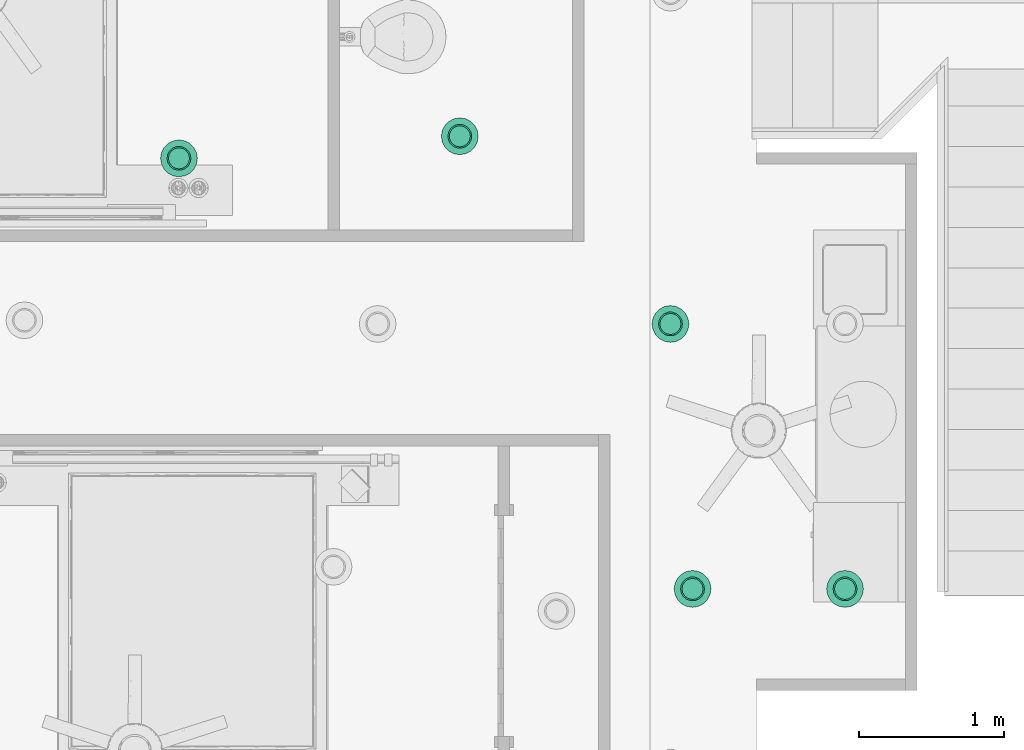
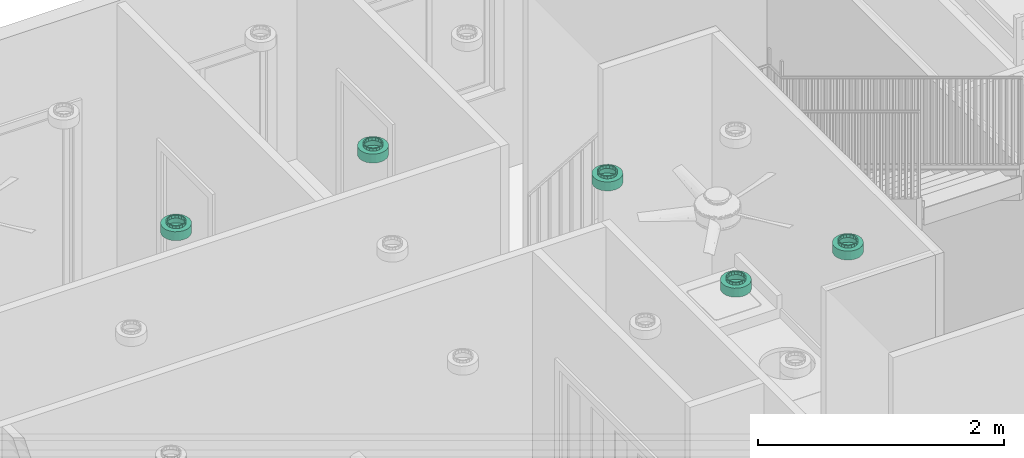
# One storey, part 16 of 28: 5 flow terminals.
"""IFC2X3 building model written with IfcOpenShell, lengths in feet."""

from ifc_helpers import new_model, entity, si_unit, converted_unit, derived_unit, direction, frame, origin, place, context, subcontext, project, spatial, faceted_brep, source, transform, mapped, material, material_list, type_object, type_shapes, element, save


model = new_model("IFC2X3")

# Units and contexts
model_context = context("Model", 3, precision=0.0001, world=origin(), true_north=direction((6.12303176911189e-17, 1.0)))
body_context = subcontext(model_context, "Body", "Model", "MODEL_VIEW")
ifc_project = project(units=[converted_unit("LENGTHUNIT", "FOOT", entity("IfcRatioMeasure", 0.3048), si_unit("LENGTHUNIT", "METRE"), dimensions=[1, 0, 0, 0, 0, 0, 0]), converted_unit("AREAUNIT", "SQUARE FOOT", entity("IfcRatioMeasure", 0.09290304), si_unit("AREAUNIT", "SQUARE_METRE"), dimensions=[2, 0, 0, 0, 0, 0, 0]), converted_unit("VOLUMEUNIT", "CUBIC FOOT", entity("IfcRatioMeasure", 0.028316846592), si_unit("VOLUMEUNIT", "CUBIC_METRE"), dimensions=[3, 0, 0, 0, 0, 0, 0]), converted_unit("PLANEANGLEUNIT", "DEGREE", entity("IfcRatioMeasure", 0.0174532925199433), si_unit("PLANEANGLEUNIT", "RADIAN"), dimensions=[0, 0, 0, 0, 0, 0, 0]), si_unit("MASSUNIT", "GRAM", prefix="KILO"), derived_unit("MASSDENSITYUNIT", [(si_unit("MASSUNIT", "GRAM", prefix="KILO"), 1), (si_unit("LENGTHUNIT", "METRE"), -3)]), si_unit("TIMEUNIT", "SECOND"), si_unit("FREQUENCYUNIT", "HERTZ"), si_unit("THERMODYNAMICTEMPERATUREUNIT", "DEGREE_CELSIUS"), derived_unit("THERMALTRANSMITTANCEUNIT", [(si_unit("MASSUNIT", "GRAM", prefix="KILO"), 1), (si_unit("THERMODYNAMICTEMPERATUREUNIT", "KELVIN"), -1), (si_unit("TIMEUNIT", "SECOND"), -3)]), derived_unit("VOLUMETRICFLOWRATEUNIT", [(si_unit("LENGTHUNIT", "METRE"), 3), (si_unit("TIMEUNIT", "SECOND"), -1)]), si_unit("ELECTRICCURRENTUNIT", "AMPERE"), si_unit("ELECTRICVOLTAGEUNIT", "VOLT"), si_unit("POWERUNIT", "WATT"), si_unit("FORCEUNIT", "NEWTON"), si_unit("ILLUMINANCEUNIT", "LUX"), si_unit("LUMINOUSFLUXUNIT", "LUMEN"), si_unit("LUMINOUSINTENSITYUNIT", "CANDELA"), derived_unit("USERDEFINED", [(si_unit("MASSUNIT", "GRAM", prefix="KILO"), -1), (si_unit("LENGTHUNIT", "METRE"), -2), (si_unit("TIMEUNIT", "SECOND"), 3), (si_unit("LUMINOUSFLUXUNIT", "LUMEN"), 1)]), derived_unit("LINEARVELOCITYUNIT", [(si_unit("LENGTHUNIT", "METRE"), 1), (si_unit("TIMEUNIT", "SECOND"), -1)]), si_unit("PRESSUREUNIT", "PASCAL"), derived_unit("USERDEFINED", [(si_unit("LENGTHUNIT", "METRE"), -2), (si_unit("MASSUNIT", "GRAM", prefix="KILO"), 1), (si_unit("TIMEUNIT", "SECOND"), -2)])], contexts=[model_context])

# Site, building, storey
site_placement = place(None, origin())
site = spatial("IfcSite", under=ifc_project, at=site_placement, Name="表面", CompositionType="ELEMENT")
building_placement = place(site_placement, origin())
building = spatial("IfcBuilding", under=site, at=building_placement, CompositionType="ELEMENT")
storey_placement = place(building_placement, frame((0.0, 0.0, 10.0)))
storey = spatial("IfcBuildingStorey", under=building, at=storey_placement, Name="Level 2", CompositionType="ELEMENT", Elevation=9.99999999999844)

# Flow terminals
ifc_material_1 = material(Name="Metal - Paint Finish - Dark Gray, Matte")
ifc_material_2 = material(Name="Glass - White, High Luminance")
ifc_material_list_1 = material_list([ifc_material_1, ifc_material_2])
ifc_material_list_2 = material_list([ifc_material_1, ifc_material_2])
light_fixture_type = type_object("IfcLightFixtureType", Name="100W - 277V", PredefinedType="NOTDEFINED", material=ifc_material_list_2)
shared_shape = source(origin(), body_context, "Body", "Brep", [
    faceted_brep([(0.557291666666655, 0.187326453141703, 0.374999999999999), (0.598651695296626, 0.245098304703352, 0.374999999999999), (0.558098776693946, 0.218001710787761, 0.374999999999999), (0.629345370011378, 0.247786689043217, 0.374999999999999), (0.517545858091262, 0.190905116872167, 0.374999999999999), (0.468904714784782, 0.155156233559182, 0.374999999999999), (0.625748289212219, 0.285651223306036, 0.374999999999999), (0.65284488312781, 0.326204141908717, 0.374999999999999), (0.676375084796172, 0.329244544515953, 0.374999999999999), (0.6623599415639, 0.374039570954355, 0.374999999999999), (0.671874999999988, 0.42187499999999, 0.374999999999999), (0.692708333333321, 0.421874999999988, 0.374999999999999), (0.676375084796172, 0.514505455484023, 0.374999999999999), (0.662359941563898, 0.469710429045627, 0.374999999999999), (0.652844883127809, 0.517545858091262, 0.374999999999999), (0.629345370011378, 0.595963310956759, 0.374999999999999), (0.625748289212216, 0.558098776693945, 0.374999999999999), (0.598651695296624, 0.598651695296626, 0.374999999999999), (0.557291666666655, 0.656423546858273, 0.374999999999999), (0.55809877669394, 0.625748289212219, 0.374999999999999), (0.517545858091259, 0.65284488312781, 0.374999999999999), (0.468904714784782, 0.688593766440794, 0.374999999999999), (0.469710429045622, 0.662359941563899, 0.374999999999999), (0.421874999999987, 0.671874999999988, 0.374999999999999), (0.374845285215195, 0.688593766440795, 0.374999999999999), (0.374039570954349, 0.662359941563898, 0.374999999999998), (0.326204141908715, 0.652844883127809, 0.374999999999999), (0.286458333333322, 0.656423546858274, 0.374999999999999), (0.285651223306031, 0.625748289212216, 0.374999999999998), (0.245098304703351, 0.598651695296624, 0.374999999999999), (0.214404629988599, 0.59596331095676, 0.374999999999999), (0.218001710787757, 0.558098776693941, 0.374999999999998), (0.190905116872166, 0.51754585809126, 0.374999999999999), (0.167374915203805, 0.514505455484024, 0.374999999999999), (0.181390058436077, 0.469710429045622, 0.374999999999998), (0.171874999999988, 0.421874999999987, 0.374999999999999), (0.151041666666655, 0.421874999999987, 0.374999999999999), (0.167374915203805, 0.329244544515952, 0.374999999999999), (0.181390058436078, 0.374039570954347, 0.374999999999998), (0.190905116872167, 0.326204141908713, 0.374999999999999), (0.214404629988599, 0.247786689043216, 0.374999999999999), (0.218001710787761, 0.28565122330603, 0.374999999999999), (0.245098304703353, 0.245098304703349, 0.374999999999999), (0.286458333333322, 0.187326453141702, 0.374999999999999), (0.285651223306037, 0.218001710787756, 0.374999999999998), (0.326204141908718, 0.190905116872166, 0.374999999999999), (0.374845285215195, 0.155156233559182, 0.374999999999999), (0.42187499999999, 0.171874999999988, 0.374999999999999), (0.374039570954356, 0.181390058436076, 0.374999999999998), (0.469710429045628, 0.181390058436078, 0.374999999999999), (0.557291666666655, 0.656423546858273, 0.291666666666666), (0.598651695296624, 0.598651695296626, 0.291666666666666), (0.55809877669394, 0.625748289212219, 0.291666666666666), (0.629345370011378, 0.595963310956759, 0.291666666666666), (0.517545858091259, 0.65284488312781, 0.291666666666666), (0.468904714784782, 0.688593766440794, 0.291666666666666), (0.625748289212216, 0.558098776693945, 0.291666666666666), (0.652844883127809, 0.517545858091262, 0.291666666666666), (0.676375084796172, 0.514505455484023, 0.291666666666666), (0.662359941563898, 0.469710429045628, 0.291666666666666), (0.671874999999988, 0.42187499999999, 0.291666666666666), (0.692708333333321, 0.421874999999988, 0.291666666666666), (0.676375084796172, 0.329244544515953, 0.291666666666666), (0.659760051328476, 0.36096904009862, 0.291666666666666), (0.65284488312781, 0.326204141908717, 0.291666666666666), (0.629345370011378, 0.247786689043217, 0.291666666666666), (0.625748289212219, 0.285651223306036, 0.291666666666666), (0.598651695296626, 0.245098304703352, 0.291666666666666), (0.557291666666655, 0.187326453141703, 0.291666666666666), (0.558098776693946, 0.218001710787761, 0.291666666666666), (0.517545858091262, 0.190905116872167, 0.291666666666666), (0.468904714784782, 0.155156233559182, 0.291666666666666), (0.469710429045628, 0.181390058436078, 0.291666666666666), (0.42187499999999, 0.171874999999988, 0.291666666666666), (0.374845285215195, 0.155156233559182, 0.291666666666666), (0.374039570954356, 0.181390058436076, 0.291666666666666), (0.326204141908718, 0.190905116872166, 0.291666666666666), (0.286458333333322, 0.187326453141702, 0.291666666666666), (0.285651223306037, 0.218001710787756, 0.291666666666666), (0.245098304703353, 0.245098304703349, 0.291666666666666), (0.214404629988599, 0.247786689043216, 0.291666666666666), (0.218001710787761, 0.28565122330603, 0.291666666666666), (0.190905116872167, 0.326204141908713, 0.291666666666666), (0.167374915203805, 0.329244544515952, 0.291666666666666), (0.181390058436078, 0.374039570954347, 0.291666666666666), (0.171874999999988, 0.421874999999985, 0.291666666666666), (0.151041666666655, 0.421874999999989, 0.291666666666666), (0.167374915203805, 0.514505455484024, 0.291666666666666), (0.183989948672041, 0.482780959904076, 0.291666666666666), (0.190905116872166, 0.51754585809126, 0.291666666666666), (0.214404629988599, 0.59596331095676, 0.291666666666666), (0.218001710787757, 0.558098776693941, 0.291666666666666), (0.245098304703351, 0.598651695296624, 0.291666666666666), (0.286458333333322, 0.656423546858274, 0.291666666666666), (0.285651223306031, 0.625748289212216, 0.291666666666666), (0.326204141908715, 0.652844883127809, 0.291666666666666), (0.374845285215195, 0.688593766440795, 0.291666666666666), (0.421874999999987, 0.671874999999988, 0.291666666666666), (0.374039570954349, 0.662359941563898, 0.291666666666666), (0.469710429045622, 0.662359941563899, 0.291666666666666)], [[[0, 1, 2]], [[1, 0, 3]], [[0, 2, 4]], [[4, 5, 0]], [[3, 6, 1]], [[3, 7, 6]], [[7, 3, 8]], [[8, 9, 7]], [[8, 10, 9]], [[10, 8, 11]], [[10, 11, 12]], [[12, 13, 10]], [[12, 14, 13]], [[15, 14, 12]], [[15, 16, 14]], [[15, 17, 16]], [[18, 17, 15]], [[18, 19, 17]], [[18, 20, 19]], [[21, 20, 18]], [[21, 22, 20]], [[21, 23, 22]], [[24, 23, 21]], [[24, 25, 23]], [[24, 26, 25]], [[27, 26, 24]], [[27, 28, 26]], [[27, 29, 28]], [[29, 27, 30]], [[30, 31, 29]], [[30, 32, 31]], [[32, 30, 33]], [[33, 34, 32]], [[33, 35, 34]], [[36, 35, 33]], [[37, 35, 36]], [[37, 38, 35]], [[37, 39, 38]], [[39, 37, 40]], [[40, 41, 39]], [[40, 42, 41]], [[42, 40, 43]], [[43, 44, 42]], [[43, 45, 44]], [[45, 43, 46]], [[47, 46, 5]], [[46, 47, 48]], [[46, 48, 45]], [[5, 4, 49]], [[5, 49, 47]], [[50, 51, 52]], [[51, 50, 53]], [[50, 52, 54]], [[54, 55, 50]], [[53, 56, 51]], [[53, 57, 56]], [[57, 53, 58]], [[58, 59, 57]], [[58, 60, 59]], [[60, 58, 61]], [[60, 61, 62]], [[62, 63, 60]], [[62, 64, 63]], [[65, 64, 62]], [[65, 66, 64]], [[65, 67, 66]], [[68, 67, 65]], [[68, 69, 67]], [[68, 70, 69]], [[71, 70, 68]], [[71, 72, 70]], [[71, 73, 72]], [[74, 73, 71]], [[74, 75, 73]], [[74, 76, 75]], [[77, 76, 74]], [[77, 78, 76]], [[77, 79, 78]], [[79, 77, 80]], [[80, 81, 79]], [[80, 82, 81]], [[82, 80, 83]], [[83, 84, 82]], [[83, 85, 84]], [[86, 85, 83]], [[87, 85, 86]], [[87, 88, 85]], [[87, 89, 88]], [[89, 87, 90]], [[90, 91, 89]], [[90, 92, 91]], [[92, 90, 93]], [[93, 94, 92]], [[93, 95, 94]], [[95, 93, 96]], [[97, 96, 55]], [[96, 97, 98]], [[96, 98, 95]], [[55, 54, 99]], [[55, 99, 97]], [[37, 36, 86, 83]], [[43, 40, 80, 77]], [[83, 80, 40, 37]], [[77, 74, 46, 43]], [[74, 71, 5, 46]], [[0, 5, 71, 68]], [[8, 3, 65, 62]], [[68, 65, 3, 0]], [[62, 61, 11, 8]], [[12, 11, 61, 58]], [[18, 15, 53, 50]], [[58, 53, 15, 12]], [[50, 55, 21, 18]], [[55, 96, 24, 21]], [[27, 24, 96, 93]], [[87, 33, 30, 90]], [[90, 30, 27, 93]], [[33, 87, 86, 36]], [[34, 35, 85, 88, 89, 32]], [[89, 91, 92, 29, 31, 32]], [[59, 60, 10, 13, 14, 57]], [[92, 94, 95, 26, 28, 29]], [[23, 25, 26, 95, 98, 97]], [[97, 99, 54, 20, 22, 23]], [[16, 17, 51, 56, 57, 14]], [[54, 52, 51, 17, 19, 20]], [[9, 10, 60, 63, 64, 7]], [[64, 66, 67, 1, 6, 7]], [[84, 85, 35, 38, 39, 82]], [[67, 69, 70, 4, 2, 1]], [[47, 49, 4, 70, 72, 73]], [[73, 75, 76, 45, 48, 47]], [[41, 42, 79, 81, 82, 39]], [[76, 78, 79, 42, 44, 45]]]),
    faceted_brep([(0.671874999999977, 0.421874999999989, 0.291666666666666), (0.838541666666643, 0.421874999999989, 0.291666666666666), (0.81814854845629, 0.550632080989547, 0.291666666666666), (0.818148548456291, 0.293117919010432, 0.291666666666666), (0.659760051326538, 0.360969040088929, 0.291666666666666), (0.662359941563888, 0.469710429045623, 0.291666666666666), (0.6528448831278, 0.326204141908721, 0.291666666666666), (0.758965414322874, 0.176964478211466, 0.291666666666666), (0.625748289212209, 0.28565122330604, 0.291666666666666), (0.598651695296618, 0.24509830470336, 0.291666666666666), (0.666785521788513, 0.084784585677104, 0.291666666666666), (0.558098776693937, 0.218001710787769, 0.291666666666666), (0.517545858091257, 0.190905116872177, 0.291666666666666), (0.550632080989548, 0.025601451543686, 0.291666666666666), (0.469710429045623, 0.181390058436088, 0.291666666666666), (0.421874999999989, 0.171874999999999, 0.291666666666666), (0.42187499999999, 0.00520833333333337, 0.291666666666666), (0.293117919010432, 0.0256014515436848, 0.291666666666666), (0.374039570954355, 0.181390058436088, 0.291666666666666), (0.326204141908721, 0.190905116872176, 0.291666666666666), (0.176964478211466, 0.0847845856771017, 0.291666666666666), (0.285651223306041, 0.218001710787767, 0.291666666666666), (0.24509830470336, 0.245098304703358, 0.291666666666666), (0.0847845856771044, 0.176964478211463, 0.291666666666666), (0.218001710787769, 0.285651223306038, 0.291666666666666), (0.190905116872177, 0.326204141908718, 0.291666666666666), (0.0256014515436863, 0.293117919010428, 0.291666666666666), (0.181390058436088, 0.374039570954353, 0.291666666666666), (0.171874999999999, 0.421874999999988, 0.291666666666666), (0.00520833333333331, 0.421874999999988, 0.291666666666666), (0.0256014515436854, 0.550632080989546, 0.291666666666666), (0.183989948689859, 0.482780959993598, 0.291666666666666), (0.190905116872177, 0.517545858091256, 0.291666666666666), (0.0847845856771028, 0.666785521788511, 0.291666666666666), (0.218001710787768, 0.558098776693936, 0.291666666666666), (0.245098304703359, 0.598651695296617, 0.291666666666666), (0.176964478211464, 0.758965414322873, 0.291666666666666), (0.285651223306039, 0.625748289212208, 0.291666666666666), (0.32620414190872, 0.652844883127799, 0.291666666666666), (0.29311791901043, 0.81814854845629, 0.291666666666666), (0.374039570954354, 0.662359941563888, 0.291666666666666), (0.421874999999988, 0.671874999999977, 0.291666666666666), (0.421874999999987, 0.838541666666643, 0.291666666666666), (0.550632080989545, 0.818148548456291, 0.291666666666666), (0.469710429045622, 0.662359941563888, 0.291666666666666), (0.517545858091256, 0.6528448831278, 0.291666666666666), (0.666785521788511, 0.758965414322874, 0.291666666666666), (0.558098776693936, 0.625748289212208, 0.291666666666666), (0.598651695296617, 0.598651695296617, 0.291666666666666), (0.758965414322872, 0.666785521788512, 0.291666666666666), (0.625748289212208, 0.558098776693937, 0.291666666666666), (0.652844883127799, 0.517545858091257, 0.291666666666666), (0.0256014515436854, 0.550632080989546, 0.0), (0.00520833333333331, 0.421874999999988, 0.0), (0.0847845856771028, 0.666785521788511, 0.0), (0.176964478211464, 0.758965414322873, 0.0), (0.29311791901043, 0.818148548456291, 0.0), (0.421874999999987, 0.838541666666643, 0.0), (0.550632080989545, 0.818148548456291, 0.0), (0.666785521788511, 0.758965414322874, 0.0), (0.758965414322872, 0.666785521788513, 0.0), (0.81814854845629, 0.550632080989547, 0.0), (0.838541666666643, 0.42187499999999, 0.0), (0.818148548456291, 0.293117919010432, 0.0), (0.666785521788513, 0.0847845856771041, 0.0), (0.550632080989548, 0.025601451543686, 0.0), (0.42187499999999, 0.00520833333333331, 0.0), (0.758965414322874, 0.176964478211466, 0.0), (0.293117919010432, 0.0256014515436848, 0.0), (0.176964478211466, 0.0847845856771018, 0.0), (0.0847845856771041, 0.176964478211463, 0.0), (0.025601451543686, 0.293117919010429, 0.0), (0.421874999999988, 0.421874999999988, 0.0), (0.808241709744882, 0.547413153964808, 0.0104166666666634), (0.421874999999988, 0.421874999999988, 0.0104166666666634), (0.828124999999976, 0.421874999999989, 0.0104166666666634), (0.7505381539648, 0.660662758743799, 0.0104166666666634), (0.660662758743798, 0.750538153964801, 0.0104166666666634), (0.547413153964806, 0.808241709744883, 0.0104166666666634), (0.421874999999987, 0.828124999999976, 0.0104166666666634), (0.296336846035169, 0.808241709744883, 0.0104166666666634), (0.183087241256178, 0.750538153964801, 0.0104166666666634), (0.0932118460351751, 0.660662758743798, 0.0104166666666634), (0.0355082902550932, 0.547413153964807, 0.0104166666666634), (0.0156249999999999, 0.421874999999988, 0.0104166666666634), (0.0355082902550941, 0.296336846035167, 0.0104166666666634), (0.0932118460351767, 0.183087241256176, 0.0104166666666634), (0.18308724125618, 0.093211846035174, 0.0104166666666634), (0.296336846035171, 0.0355082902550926, 0.0104166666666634), (0.42187499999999, 0.0156249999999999, 0.0104166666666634), (0.547413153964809, 0.0355082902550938, 0.0104166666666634), (0.6606627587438, 0.0932118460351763, 0.0104166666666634), (0.750538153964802, 0.183087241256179, 0.0104166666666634), (0.808241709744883, 0.296336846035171, 0.0104166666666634), (0.0355082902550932, 0.547413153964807, 0.281249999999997), (0.0156249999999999, 0.421874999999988, 0.281249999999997), (0.0932118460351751, 0.660662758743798, 0.281249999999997), (0.183087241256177, 0.750538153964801, 0.281249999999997), (0.296336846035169, 0.808241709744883, 0.281249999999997), (0.421874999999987, 0.828124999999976, 0.281249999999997), (0.660662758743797, 0.750538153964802, 0.281249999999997), (0.547413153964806, 0.808241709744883, 0.281249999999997), (0.808241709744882, 0.547413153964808, 0.281249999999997), (0.7505381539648, 0.660662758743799, 0.281249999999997), (0.828124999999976, 0.42187499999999, 0.281249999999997), (0.808241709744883, 0.296336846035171, 0.281249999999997), (0.547413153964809, 0.0355082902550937, 0.281249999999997), (0.6606627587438, 0.0932118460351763, 0.281249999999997), (0.42187499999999, 0.0156249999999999, 0.281249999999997), (0.750538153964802, 0.183087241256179, 0.281249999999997), (0.183087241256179, 0.0932118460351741, 0.281249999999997), (0.296336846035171, 0.0355082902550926, 0.281249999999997), (0.0355082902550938, 0.296336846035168, 0.281249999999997), (0.0932118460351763, 0.183087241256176, 0.281249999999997), (0.66145833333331, 0.421874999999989, 0.281249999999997), (0.650878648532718, 0.475062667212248, 0.281249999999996), (0.643221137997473, 0.513559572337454, 0.281249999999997), (0.650878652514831, 0.368687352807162, 0.281249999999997), (0.643221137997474, 0.330190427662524, 0.281249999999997), (0.617253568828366, 0.291327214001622, 0.281249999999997), (0.591285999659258, 0.25246400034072, 0.281249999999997), (0.552422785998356, 0.226496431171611, 0.281249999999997), (0.513559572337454, 0.200528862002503, 0.281249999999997), (0.467717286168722, 0.191410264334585, 0.281249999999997), (0.421874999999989, 0.182291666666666, 0.281249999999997), (0.376032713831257, 0.191410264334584, 0.281249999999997), (0.330190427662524, 0.200528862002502, 0.281249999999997), (0.291327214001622, 0.22649643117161, 0.281249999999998), (0.25246400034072, 0.252464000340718, 0.281249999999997), (0.226496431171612, 0.29132721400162, 0.281249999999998), (0.200528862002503, 0.330190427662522, 0.281249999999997), (0.191410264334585, 0.376032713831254, 0.281249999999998), (0.182291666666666, 0.421874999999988, 0.281249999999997), (0.192871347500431, 0.47506264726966, 0.281249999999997), (0.200528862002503, 0.513559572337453, 0.281249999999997), (0.226496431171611, 0.552422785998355, 0.281249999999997), (0.252464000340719, 0.591285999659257, 0.281249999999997), (0.291327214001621, 0.617253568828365, 0.281249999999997), (0.330190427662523, 0.643221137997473, 0.281249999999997), (0.376032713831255, 0.652339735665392, 0.281249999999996), (0.421874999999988, 0.66145833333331, 0.281249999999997), (0.46771728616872, 0.652339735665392, 0.281249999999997), (0.513559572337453, 0.643221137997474, 0.281249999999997), (0.591285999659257, 0.591285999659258, 0.281249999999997), (0.552422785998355, 0.617253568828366, 0.281249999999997), (0.617253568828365, 0.552422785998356, 0.281249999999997), (0.191410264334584, 0.467717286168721, 0.375), (0.182291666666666, 0.421874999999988, 0.375), (0.200528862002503, 0.513559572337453, 0.375), (0.252464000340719, 0.591285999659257, 0.375), (0.226496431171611, 0.552422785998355, 0.375), (0.330190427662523, 0.643221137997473, 0.375), (0.291327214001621, 0.617253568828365, 0.375), (0.421874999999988, 0.66145833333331, 0.375), (0.376032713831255, 0.652339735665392, 0.375), (0.552422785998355, 0.617253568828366, 0.375), (0.513559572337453, 0.643221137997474, 0.375), (0.591285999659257, 0.591285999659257, 0.375), (0.643221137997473, 0.513559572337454, 0.375), (0.617253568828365, 0.552422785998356, 0.375), (0.46771728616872, 0.652339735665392, 0.375), (0.652339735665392, 0.467717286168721, 0.375), (0.66145833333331, 0.421874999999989, 0.375), (0.652339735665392, 0.376032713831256, 0.375), (0.643221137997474, 0.330190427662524, 0.375), (0.591285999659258, 0.25246400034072, 0.375), (0.617253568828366, 0.291327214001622, 0.375), (0.513559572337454, 0.200528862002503, 0.375), (0.552422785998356, 0.226496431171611, 0.375), (0.421874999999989, 0.182291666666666, 0.375), (0.467717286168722, 0.191410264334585, 0.375), (0.200528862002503, 0.330190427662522, 0.375), (0.192871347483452, 0.368687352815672, 0.375), (0.25246400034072, 0.252464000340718, 0.375), (0.291327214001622, 0.22649643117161, 0.375), (0.330190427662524, 0.200528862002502, 0.375), (0.226496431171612, 0.29132721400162, 0.375), (0.376032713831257, 0.191410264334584, 0.375), (0.671874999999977, 0.421874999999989, 0.375), (0.659760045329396, 0.482780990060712, 0.375), (0.652844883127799, 0.517545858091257, 0.375), (0.662359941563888, 0.374039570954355, 0.375), (0.6528448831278, 0.326204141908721, 0.375), (0.625748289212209, 0.28565122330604, 0.375), (0.598651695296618, 0.24509830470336, 0.375), (0.558098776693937, 0.218001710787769, 0.375), (0.517545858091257, 0.190905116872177, 0.375), (0.469710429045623, 0.181390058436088, 0.375), (0.421874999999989, 0.171874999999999, 0.375), (0.374039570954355, 0.181390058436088, 0.375), (0.326204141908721, 0.190905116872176, 0.375), (0.285651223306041, 0.218001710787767, 0.375), (0.24509830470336, 0.245098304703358, 0.375), (0.218001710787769, 0.285651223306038, 0.375), (0.190905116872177, 0.326204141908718, 0.375), (0.183989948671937, 0.360969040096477, 0.375), (0.171874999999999, 0.421874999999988, 0.375), (0.181390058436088, 0.469710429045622, 0.375), (0.190905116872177, 0.517545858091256, 0.375), (0.218001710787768, 0.558098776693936, 0.375), (0.245098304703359, 0.598651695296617, 0.375), (0.285651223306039, 0.625748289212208, 0.375), (0.32620414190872, 0.652844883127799, 0.375), (0.374039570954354, 0.662359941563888, 0.375), (0.421874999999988, 0.671874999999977, 0.375), (0.469710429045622, 0.662359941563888, 0.375), (0.517545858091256, 0.6528448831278, 0.375), (0.558098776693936, 0.625748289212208, 0.375), (0.598651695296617, 0.598651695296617, 0.375), (0.625748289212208, 0.558098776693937, 0.375)], [[[0, 1, 2]], [[0, 3, 1]], [[3, 0, 4]], [[2, 5, 0]], [[3, 4, 6]], [[7, 3, 6]], [[7, 6, 8]], [[7, 8, 9]], [[10, 7, 9]], [[10, 9, 11]], [[10, 11, 12]], [[10, 12, 13]], [[13, 12, 14]], [[13, 14, 15]], [[16, 13, 15]], [[16, 15, 17]], [[17, 15, 18]], [[17, 18, 19]], [[17, 19, 20]], [[20, 19, 21]], [[20, 21, 22]], [[23, 20, 22]], [[23, 22, 24]], [[23, 24, 25]], [[25, 26, 23]], [[26, 25, 27]], [[26, 27, 28]], [[29, 26, 28]], [[30, 29, 28]], [[30, 28, 31]], [[30, 31, 32]], [[30, 32, 33]], [[33, 32, 34]], [[33, 34, 35]], [[36, 33, 35]], [[36, 35, 37]], [[36, 37, 38]], [[39, 36, 38]], [[39, 38, 40]], [[39, 40, 41]], [[42, 39, 41]], [[42, 41, 43]], [[43, 41, 44]], [[43, 44, 45]], [[46, 43, 45]], [[46, 45, 47]], [[46, 47, 48]], [[46, 48, 49]], [[49, 48, 50]], [[49, 50, 51]], [[49, 51, 2]], [[2, 51, 5]], [[52, 53, 29, 30]], [[30, 33, 54, 52]], [[36, 55, 54, 33]], [[55, 36, 39, 56]], [[56, 39, 42, 57]], [[58, 43, 46, 59]], [[60, 49, 2, 61]], [[46, 49, 60, 59]], [[61, 2, 1, 62]], [[43, 58, 57, 42]], [[1, 3, 63, 62]], [[64, 10, 13, 65]], [[16, 66, 65, 13]], [[63, 3, 7, 67]], [[10, 64, 67, 7]], [[68, 17, 20, 69]], [[70, 23, 26, 71]], [[20, 23, 70, 69]], [[71, 26, 29, 53]], [[17, 68, 66, 16]], [[62, 72, 61]], [[62, 63, 72]], [[72, 63, 67]], [[72, 67, 64]], [[72, 64, 65]], [[65, 66, 72]], [[68, 72, 66]], [[72, 68, 69]], [[72, 69, 70]], [[71, 72, 70]], [[72, 71, 53]], [[72, 53, 52]], [[72, 52, 54]], [[54, 55, 72]], [[72, 55, 56]], [[56, 57, 72]], [[72, 57, 58]], [[59, 72, 58]], [[72, 59, 60]], [[61, 72, 60]], [[73, 74, 75]], [[76, 74, 73]], [[76, 77, 74]], [[78, 74, 77]], [[78, 79, 74]], [[74, 79, 80]], [[80, 81, 74]], [[74, 81, 82]], [[82, 83, 74]], [[83, 84, 74]], [[84, 85, 74]], [[86, 74, 85]], [[86, 87, 74]], [[87, 88, 74]], [[89, 74, 88]], [[74, 89, 90]], [[90, 91, 74]], [[91, 92, 74]], [[92, 93, 74]], [[74, 93, 75]], [[94, 95, 84, 83]], [[82, 96, 94, 83]], [[96, 82, 81, 97]], [[81, 80, 98, 97]], [[98, 80, 79, 99]], [[100, 101, 78, 77]], [[102, 103, 76, 73]], [[77, 76, 103, 100]], [[104, 102, 73, 75]], [[79, 78, 101, 99]], [[105, 104, 75, 93]], [[106, 107, 91, 90]], [[108, 106, 90, 89]], [[93, 92, 109, 105]], [[109, 92, 91, 107]], [[110, 111, 88, 87]], [[112, 113, 86, 85]], [[87, 86, 113, 110]], [[95, 112, 85, 84]], [[89, 88, 111, 108]], [[102, 104, 114]], [[102, 114, 115]], [[102, 115, 116]], [[102, 116, 103]], [[104, 105, 114]], [[105, 117, 114]], [[105, 118, 117]], [[118, 105, 109]], [[109, 119, 118]], [[109, 120, 119]], [[120, 109, 107]], [[107, 121, 120]], [[107, 122, 121]], [[106, 122, 107]], [[106, 123, 122]], [[106, 124, 123]], [[124, 106, 108]], [[111, 124, 108]], [[111, 125, 124]], [[111, 126, 125]], [[110, 126, 111]], [[110, 127, 126]], [[110, 128, 127]], [[128, 110, 113]], [[113, 129, 128]], [[113, 130, 129]], [[113, 112, 130]], [[112, 131, 130]], [[112, 132, 131]], [[132, 112, 95]], [[132, 95, 94]], [[94, 133, 132]], [[94, 134, 133]], [[96, 134, 94]], [[96, 135, 134]], [[96, 136, 135]], [[136, 96, 97]], [[97, 137, 136]], [[97, 138, 137]], [[138, 97, 98]], [[98, 139, 138]], [[98, 140, 139]], [[140, 98, 99]], [[101, 140, 99]], [[101, 141, 140]], [[101, 142, 141]], [[142, 101, 100]], [[103, 143, 100]], [[100, 143, 144]], [[100, 144, 142]], [[103, 116, 145]], [[103, 145, 143]], [[146, 147, 132, 133, 134, 148]], [[136, 149, 150, 148, 134, 135]], [[136, 137, 138, 151, 152, 149]], [[151, 138, 139, 140, 153, 154]], [[155, 156, 142, 144, 143, 157]], [[116, 158, 159, 157, 143, 145]], [[153, 140, 141, 142, 156, 160]], [[161, 158, 116, 115, 114, 162]], [[163, 162, 114, 117, 118, 164]], [[120, 165, 166, 164, 118, 119]], [[120, 121, 122, 167, 168, 165]], [[123, 124, 169, 170, 167, 122]], [[171, 130, 131, 132, 147, 172]], [[128, 173, 174, 175, 126, 127]], [[128, 129, 130, 171, 176, 173]], [[175, 177, 169, 124, 125, 126]], [[162, 178, 179]], [[162, 179, 180]], [[180, 161, 162]], [[162, 181, 178]], [[162, 182, 181]], [[182, 162, 163]], [[182, 163, 164]], [[164, 183, 182]], [[164, 184, 183]], [[184, 164, 166]], [[184, 166, 165]], [[165, 185, 184]], [[165, 186, 185]], [[186, 165, 168]], [[186, 168, 167]], [[167, 187, 186]], [[167, 188, 187]], [[188, 167, 170]], [[188, 170, 169]], [[188, 169, 177]], [[188, 177, 175]], [[175, 189, 188]], [[175, 190, 189]], [[190, 175, 174]], [[190, 174, 173]], [[173, 191, 190]], [[173, 192, 191]], [[192, 173, 176]], [[192, 176, 171]], [[171, 193, 192]], [[171, 194, 193]], [[194, 171, 172]], [[194, 172, 147]], [[147, 195, 194]], [[147, 196, 195]], [[147, 197, 196]], [[147, 198, 197]], [[198, 147, 146]], [[198, 146, 148]], [[148, 199, 198]], [[148, 200, 199]], [[200, 148, 150]], [[200, 150, 149]], [[149, 201, 200]], [[149, 202, 201]], [[202, 149, 152]], [[202, 152, 151]], [[151, 203, 202]], [[151, 204, 203]], [[204, 151, 154]], [[204, 154, 153]], [[204, 153, 160]], [[204, 160, 156]], [[156, 205, 204]], [[156, 206, 205]], [[206, 156, 155]], [[206, 155, 157]], [[157, 207, 206]], [[157, 208, 207]], [[208, 157, 159]], [[208, 159, 158]], [[158, 180, 209]], [[180, 158, 161]], [[158, 209, 208]], [[198, 32, 31, 28, 196, 197]], [[199, 200, 35, 34, 32, 198]], [[200, 201, 202, 38, 37, 35]], [[40, 38, 202, 203, 204, 41]], [[47, 45, 206, 207, 208, 48]], [[178, 0, 5, 51, 180, 179]], [[208, 209, 180, 51, 50, 48]], [[45, 44, 41, 204, 205, 206]], [[182, 6, 4, 0, 178, 181]], [[183, 184, 9, 8, 6, 182]], [[184, 185, 186, 12, 11, 9]], [[187, 188, 15, 14, 12, 186]], [[195, 196, 28, 27, 25, 194]], [[191, 192, 22, 21, 19, 190]], [[192, 193, 194, 25, 24, 22]], [[19, 18, 15, 188, 189, 190]]]),
])
type_shapes(light_fixture_type, [shared_shape])
flow_terminal_1_placement = place(storey_placement, frame((5.84008691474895, 3.26051869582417, 9.125)))
element("IfcFlowTerminal", 1, at=flow_terminal_1_placement, inside=storey, type_object=light_fixture_type, material=ifc_material_list_1, Name="Ceiling Light - Flat Round:100W - 277V", ObjectType="100W - 277V", context=body_context, shape_type="MappedRepresentation", body=[
    mapped(shared_shape, transform((0.0, 0.0, 0.0), scale=1.0)),
])
ifc_material_list_3 = material_list([ifc_material_1, ifc_material_2])
flow_terminal_2_placement = place(storey_placement, frame((6.34008691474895, -2.73948130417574, 9.125)))
element("IfcFlowTerminal", 2, at=flow_terminal_2_placement, inside=storey, type_object=light_fixture_type, material=ifc_material_list_3, Name="Ceiling Light - Flat Round:100W - 277V", ObjectType="100W - 277V", context=body_context, shape_type="MappedRepresentation", body=[
    mapped(shared_shape, transform((0.0, 0.0, 0.0), scale=1.0)),
])
ifc_material_list_4 = material_list([ifc_material_1, ifc_material_2])
flow_terminal_3_placement = place(storey_placement, frame((1.0692535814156, 7.51051869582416, 9.125)))
element("IfcFlowTerminal", 3, at=flow_terminal_3_placement, inside=storey, type_object=light_fixture_type, material=ifc_material_list_4, Name="Ceiling Light - Flat Round:100W - 277V", ObjectType="100W - 277V", context=body_context, shape_type="MappedRepresentation", body=[
    mapped(shared_shape, transform((0.0, 0.0, 0.0), scale=1.0)),
])
ifc_material_list_5 = material_list([ifc_material_1, ifc_material_2])
flow_terminal_4_placement = place(storey_placement, frame((-5.29012141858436, 7.01051869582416, 9.125)))
element("IfcFlowTerminal", 4, at=flow_terminal_4_placement, inside=storey, type_object=light_fixture_type, material=ifc_material_list_5, Name="Ceiling Light - Flat Round:100W - 277V", ObjectType="100W - 277V", context=body_context, shape_type="MappedRepresentation", body=[
    mapped(shared_shape, transform((0.0, 0.0, 0.0), scale=1.0)),
])
ifc_material_list_6 = material_list([ifc_material_1, ifc_material_2])
flow_terminal_5_placement = place(storey_placement, frame((9.79321191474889, -2.73948130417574, 9.125)))
element("IfcFlowTerminal", 5, at=flow_terminal_5_placement, inside=storey, type_object=light_fixture_type, material=ifc_material_list_6, Name="Ceiling Light - Flat Round:100W - 277V", ObjectType="100W - 277V", context=body_context, shape_type="MappedRepresentation", body=[
    mapped(shared_shape, transform((0.0, 0.0, 0.0), scale=1.0)),
])

save(model, "model.ifc")
